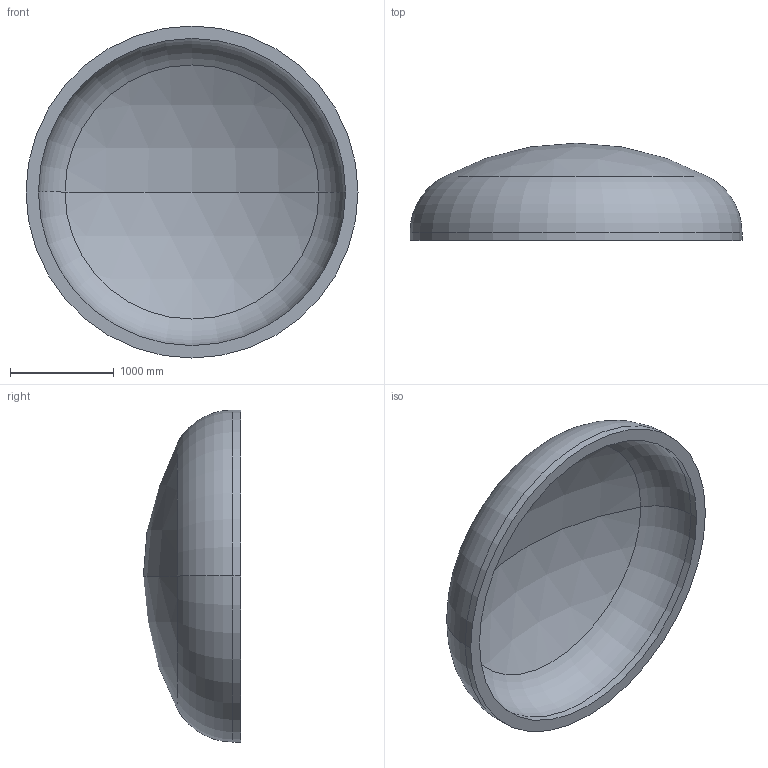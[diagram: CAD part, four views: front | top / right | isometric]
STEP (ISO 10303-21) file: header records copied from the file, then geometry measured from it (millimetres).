
FILE_DESCRIPTION (( 'STEP AP203' ), '1' );
FILE_NAME ('DIN 28013 Korbbogenform_-_Boden DIN 28013 - 3200 x 75 - I - s=120.step', '2016-07-01T19:04:43', ( '' ), ( '' ), 'SwSTEP 2.0', 'SolidWorks 2013', '' );
FILE_SCHEMA (( 'CONFIG_CONTROL_DESIGN' ));
Length unit declared in the file: millimetre
Products named in the file (1): DIN 28013 Korbbogenform_-_Boden DIN 28013 - 3200 x 75 - I - s=120
Bounding box: 3200 x 937.09 x 3200 mm (x, y, z)
Volume: 1358745922.8 mm3; surface area: 23837050 mm2
Topology: 1 solids, 1 shells, 13 faces, 24 edges, 14 vertices
Faces by surface type: torus 4, cylinder 4, sphere 4, plane 1
Entity records: 407 total; most frequent: DIRECTION 72, CARTESIAN_POINT 52, ORIENTED_EDGE 48, AXIS2_PLACEMENT_3D 34, EDGE_CURVE 24, CIRCLE 20, VERTEX_POINT 14, EDGE_LOOP 14
